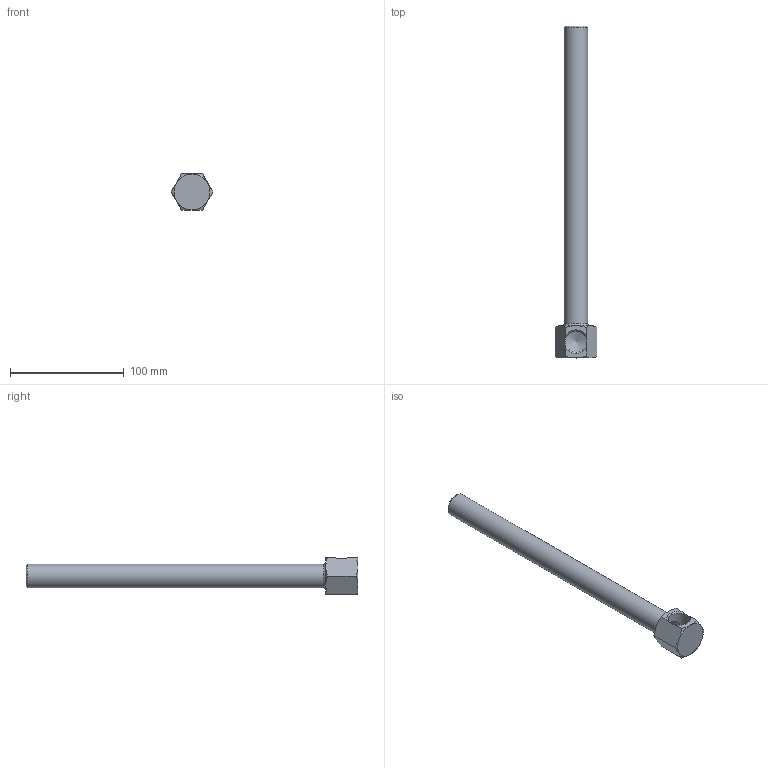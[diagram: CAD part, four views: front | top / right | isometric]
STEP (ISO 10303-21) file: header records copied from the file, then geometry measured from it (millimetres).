
FILE_DESCRIPTION(/* description */ (''),/* implementation_level */ '2;1');
FILE_NAME(/* name */ 'C:/Users/drich/Desktop/50B-11-1_2 v1.step',/* time_stamp */ '2019-12-29T15:26:35-06:00',/* author */ (''),/* organization */ (''),/* preprocessor_version */ 'ST-DEVELOPER v18',/* originating_system */ 'Autodesk Translation Framework v8.12.0.6',/* authorisation */ '');
FILE_SCHEMA (('AUTOMOTIVE_DESIGN { 1 0 10303 214 3 1 1 }'));
Length unit declared in the file: inch
Products named in the file (1): 50B-11-1_2
Bounding box: 36.66 x 292.1 x 31.75 mm (x, y, z)
Volume: 59470.5 mm3; surface area: 35707.3 mm2
Topology: 1 solids, 1 shells, 20 faces, 53 edges, 35 vertices
Faces by surface type: plane 10, cone 6, cylinder 3, torus 1
Full cylindrical faces by diameter (mm): 15.062 x1, 18.901 x1, 20.813 x1
Entity records: 687 total; most frequent: CARTESIAN_POINT 184, ORIENTED_EDGE 104, DIRECTION 91, EDGE_CURVE 52, AXIS2_PLACEMENT_3D 37, VERTEX_POINT 35, EDGE_LOOP 23, FACE_OUTER_BOUND 20
